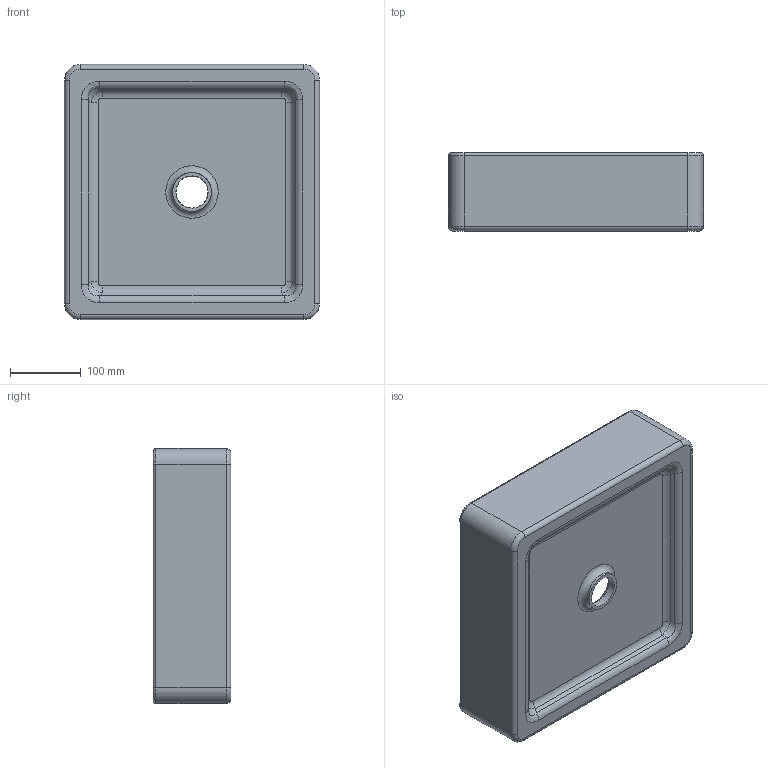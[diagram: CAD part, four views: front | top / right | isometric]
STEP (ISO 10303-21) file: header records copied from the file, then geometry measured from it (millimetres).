
FILE_DESCRIPTION(/* description */ (''),/* implementation_level */ '2;1');
FILE_NAME(/* name */ 'c:\worker\convert-fusion-r05\tmp\job-1\5\output\files\141e56cc-6b7c-4cbd-92ec-62a0a62802d8\c0c4e909-37ab-4931-a4ae-77bf3fd5f9b5.zip.stp',/* time_stamp */ '2020-07-02T11:53:09+00:00',/* author */ (''),/* organization */ (''),/* preprocessor_version */ 'ST-DEVELOPER v18.1',/* originating_system */ 'Autodesk Translation Framework v9.3.0.1241',/* authorisation */ '');
FILE_SCHEMA (('AUTOMOTIVE_DESIGN { 1 0 10303 214 3 1 1 }'));
Length unit declared in the file: millimetre
Products named in the file (1): !PASADENA 360
Bounding box: 360 x 110 x 360 mm (x, y, z)
Volume: 4159743.5 mm3; surface area: 488769.4 mm2
Topology: 1 solids, 1 shells, 88 faces, 198 edges, 114 vertices
Faces by surface type: cylinder 36, bspline 26, plane 16, torus 10
Full cylindrical faces by diameter (mm): 45.17 x1, 55 x1
Entity records: 7487 total; most frequent: CARTESIAN_POINT 5638, ORIENTED_EDGE 396, DIRECTION 356, EDGE_CURVE 198, AXIS2_PLACEMENT_3D 142, VERTEX_POINT 114, EDGE_LOOP 92, FACE_OUTER_BOUND 88
